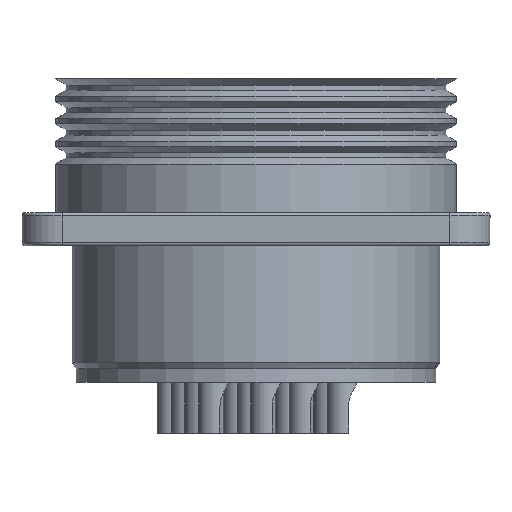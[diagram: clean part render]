
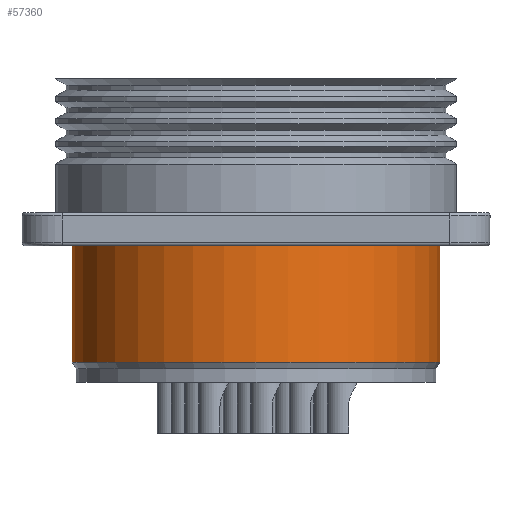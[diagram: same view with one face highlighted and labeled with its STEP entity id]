
A CAD part, left-side view. The second image highlights one B-rep face of the part: STEP entity #57360.
In plain terms, the highlighted cylindrical face has radius 13.75 mm (diameter 27.5 mm), a partial arc.
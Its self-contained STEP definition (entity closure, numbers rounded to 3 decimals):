
#435 = AXIS2_PLACEMENT_3D ( 'NONE', #1926, #2962, #2588 ) ;
#1926 = CARTESIAN_POINT ( 'NONE',  ( 0., 0., -8.7 ) ) ;
#2588 = DIRECTION ( 'NONE',  ( 0., -1., 0. ) ) ;
#2962 = DIRECTION ( 'NONE',  ( 0., 0., 1. ) ) ;
#12094 = EDGE_CURVE ( 'NONE', #24000, #64582, #33960, .T. ) ;
#12268 = ORIENTED_EDGE ( 'NONE', *, *, #12094, .F. ) ;
#12770 = AXIS2_PLACEMENT_3D ( 'NONE', #60278, #19446, #45855 ) ;
#15163 = CARTESIAN_POINT ( 'NONE',  ( 0., -13.75, 0. ) ) ;
#16238 = VECTOR ( 'NONE', #29801, 1000. ) ;
#19446 = DIRECTION ( 'NONE',  ( 0., 0., 1. ) ) ;
#19753 = CARTESIAN_POINT ( 'NONE',  ( 0., -13.75, 0. ) ) ;
#24000 = VERTEX_POINT ( 'NONE', #49943 ) ;
#25870 = DIRECTION ( 'NONE',  ( 0., 1., 0. ) ) ;
#28919 = EDGE_LOOP ( 'NONE', ( #12268, #61200, #53493, #40657 ) ) ;
#29801 = DIRECTION ( 'NONE',  ( 0., 0., 1. ) ) ;
#30908 = VERTEX_POINT ( 'NONE', #19753 ) ;
#32829 = CARTESIAN_POINT ( 'NONE',  ( 0., 13.75, 0. ) ) ;
#33960 = LINE ( 'NONE', #39053, #65853 ) ;
#34323 = FACE_OUTER_BOUND ( 'NONE', #28919, .T. ) ;
#38787 = AXIS2_PLACEMENT_3D ( 'NONE', #56254, #45876, #25870 ) ;
#39053 = CARTESIAN_POINT ( 'NONE',  ( 0., 13.75, 0. ) ) ;
#40657 = ORIENTED_EDGE ( 'NONE', *, *, #44584, .T. ) ;
#43116 = CYLINDRICAL_SURFACE ( 'NONE', #12770, 13.75 ) ;
#43239 = VERTEX_POINT ( 'NONE', #63524 ) ;
#44584 = EDGE_CURVE ( 'NONE', #30908, #64582, #45278, .T. ) ;
#45278 = CIRCLE ( 'NONE', #38787, 13.75 ) ;
#45855 = DIRECTION ( 'NONE',  ( 0., -1., 0. ) ) ;
#45876 = DIRECTION ( 'NONE',  ( 0., 0., -1. ) ) ;
#49562 = DIRECTION ( 'NONE',  ( 0., 0., 1. ) ) ;
#49943 = CARTESIAN_POINT ( 'NONE',  ( 0., 13.75, -8.7 ) ) ;
#52426 = EDGE_CURVE ( 'NONE', #24000, #43239, #62907, .T. ) ;
#53493 = ORIENTED_EDGE ( 'NONE', *, *, #58923, .T. ) ;
#56254 = CARTESIAN_POINT ( 'NONE',  ( 0., 0., 0. ) ) ;
#57360 = ADVANCED_FACE ( 'NONE', ( #34323 ), #43116, .T. ) ;
#58923 = EDGE_CURVE ( 'NONE', #43239, #30908, #66483, .T. ) ;
#60278 = CARTESIAN_POINT ( 'NONE',  ( 0., 0., 0. ) ) ;
#61200 = ORIENTED_EDGE ( 'NONE', *, *, #52426, .T. ) ;
#62907 = CIRCLE ( 'NONE', #435, 13.75 ) ;
#63524 = CARTESIAN_POINT ( 'NONE',  ( 0., -13.75, -8.7 ) ) ;
#64582 = VERTEX_POINT ( 'NONE', #32829 ) ;
#65853 = VECTOR ( 'NONE', #49562, 1000. ) ;
#66483 = LINE ( 'NONE', #15163, #16238 ) ;
